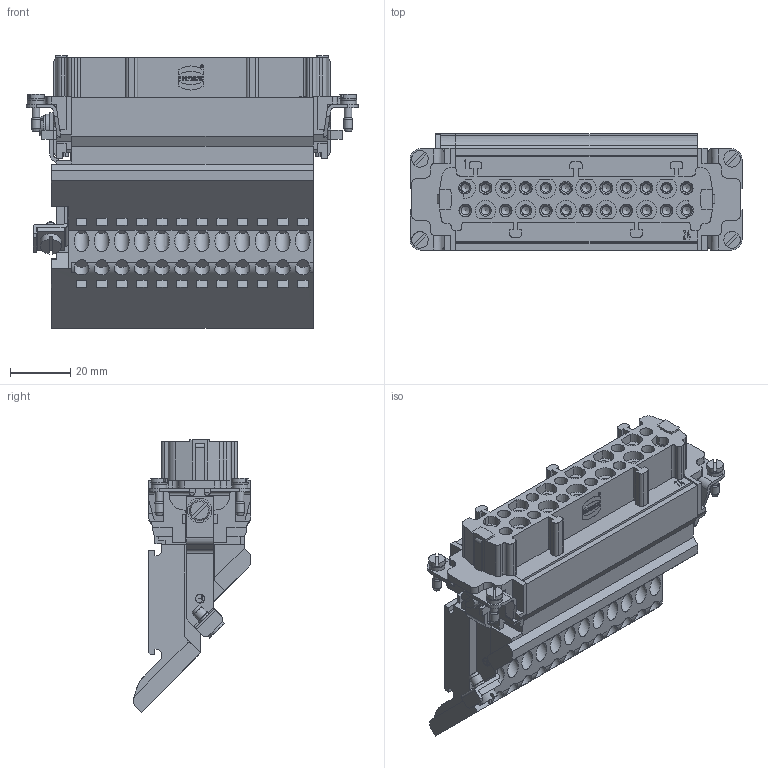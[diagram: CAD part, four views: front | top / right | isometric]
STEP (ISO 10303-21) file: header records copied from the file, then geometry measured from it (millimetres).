
FILE_DESCRIPTION(/* description */ (''),/* implementation_level */ '2;1');
FILE_NAME(/* name */ '100174045ugm000_c.stp',/* time_stamp */ '2023-01-19T11:37:57+01:00',/* author */ (''),/* organization */ (''),/* preprocessor_version */ 'ST-DEVELOPER v16.7',/* originating_system */ 'SIEMENS PLM Software NX 1911',/* authorisation */ '');
FILE_SCHEMA (('AUTOMOTIVE_DESIGN { 1 0 10303 214 3 1 1 1 }'));
Length unit declared in the file: millimetre
Products named in the file (1): 100174045ugm000_c
Bounding box: 110.6 x 39.05 x 90.91 mm (x, y, z)
Volume: 163633.4 mm3; surface area: 40027 mm2
Topology: 1 solids, 1 shells, 1097 faces, 2922 edges, 1927 vertices
Faces by surface type: plane 779, cylinder 242, cone 70, bspline 4, extrusion 2
Full cylindrical faces by diameter (mm): 0.911 x1, 1.077 x1, 2.3 x2, 2.45 x2, 2.5 x4, 2.8 x24, 2.925 x1, 3 x5, 3.05 x24, 3.242 x1, 4 x1, 4.35 x1, 5 x24, 5.2 x4, 5.5 x4, 7 x2, 8.182 x1
Entity records: 36843 total; most frequent: CARTESIAN_POINT 7075, ORIENTED_EDGE 5308, DIRECTION 5282, EDGE_CURVE 2654, VECTOR 1950, LINE 1948, VERTEX_POINT 1858, AXIS2_PLACEMENT_3D 1666
